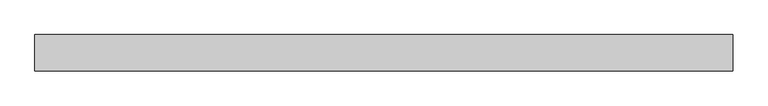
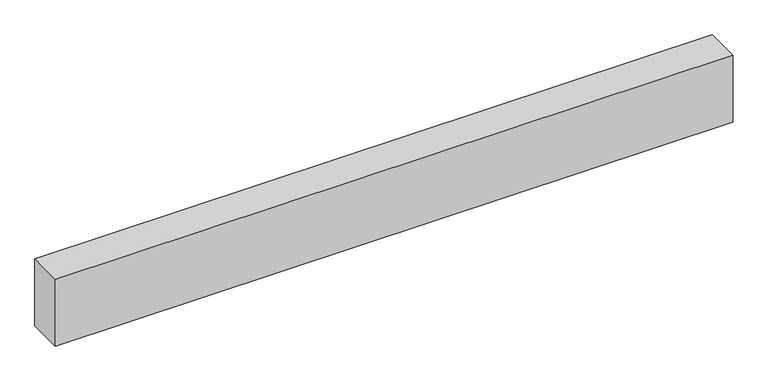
"""IFC4 building model written with IfcOpenShell, lengths in millimetres: beam geometry, NS R30 120x240x2300 : NS R30 120x240x2300."""

from ifc_helpers import new_model, si_unit, origin, origin_with_axes, place, context, project, spatial, polyline, outline, extrude, source, transform, mapped, element, save


def beam_5c42a2f0(model_context):
    return source(origin(), model_context, "Body", "SweptSolid", [
        extrude(outline(polyline([(-1150.0, -60.0), (-1150.0, 60.0), (1150.0, 60.0), (1150.0, -60.0), (-1150.0, -60.0)])), origin_with_axes(), (0.0, 0.0, 1.0), 240.0),
    ])


if __name__ == "__main__":
    model = new_model("IFC4")
    model_context = context("Model", 3, world=origin())
    ifc_project = project(units=[si_unit("LENGTHUNIT", "METRE", prefix="MILLI")], contexts=[model_context])
    site = spatial("IfcSite", under=ifc_project)
    building = spatial("IfcBuilding", under=site)
    placement = place(None, origin())
    beam_shape = beam_5c42a2f0(model_context)
    element("IfcBeam", 1, ObjectType="NS R30 120x240x2300 : NS R30 120x240x2300", at=placement, inside=building, context=model_context, shape_type="MappedRepresentation", body=[
        mapped(beam_shape, transform((0.0, 0.0, 0.0), x_axis=(1.0, 0.0, 0.0), y_axis=(0.0, 1.0, 0.0), z_axis=(0.0, 0.0, 1.0))),
    ])
    save(model, "model.ifc")
